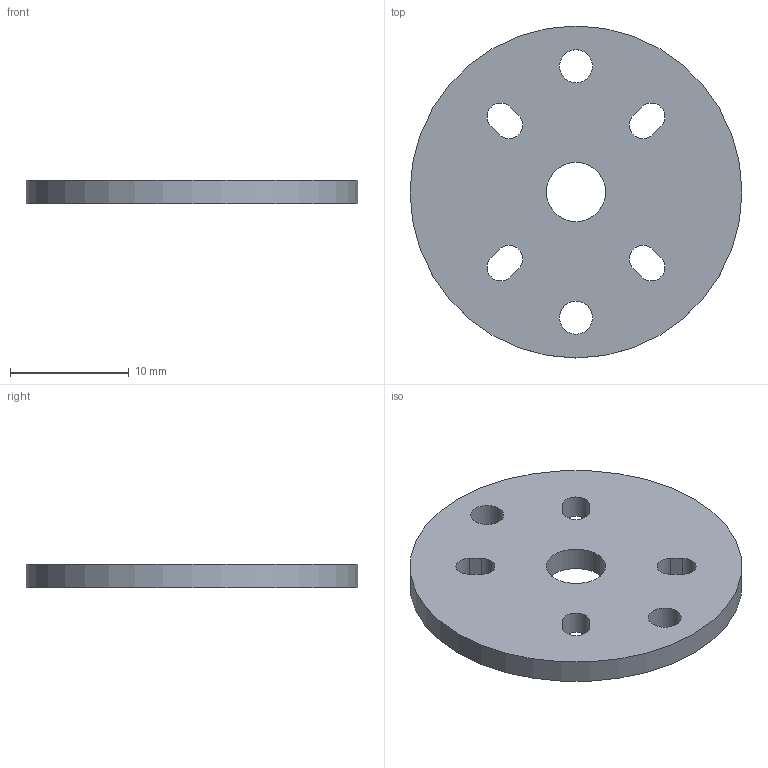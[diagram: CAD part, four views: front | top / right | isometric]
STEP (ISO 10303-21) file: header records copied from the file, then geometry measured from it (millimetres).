
FILE_DESCRIPTION(('Open CASCADE Model'),'2;1');
FILE_NAME('Open CASCADE Shape Model','2026-10-11T00:34:15',('Author'),( 'Open CASCADE'),'Open CASCADE STEP processor 7.8','Open CASCADE 7.8' ,'Unknown');
FILE_SCHEMA(('AUTOMOTIVE_DESIGN { 1 0 10303 214 1 1 1 1 }'));
Length unit declared in the file: millimetre
Products named in the file (1): Open CASCADE STEP translator 7.8 3
Bounding box: 28 x 28 x 2 mm (x, y, z)
Volume: 1116 mm3; surface area: 1432.3 mm2
Topology: 1 solids, 1 shells, 22 faces, 60 edges, 40 vertices
Faces by surface type: cylinder 12, plane 10
Full cylindrical faces by diameter (mm): 2.8 x2, 5 x1, 28 x1
Entity records: 1542 total; most frequent: CARTESIAN_POINT 371, DIRECTION 202, ORIENTED_EDGE 120, PCURVE 120, DEFINITIONAL_REPRESENTATION 120, LINE 100, VECTOR 100, EDGE_CURVE 60
